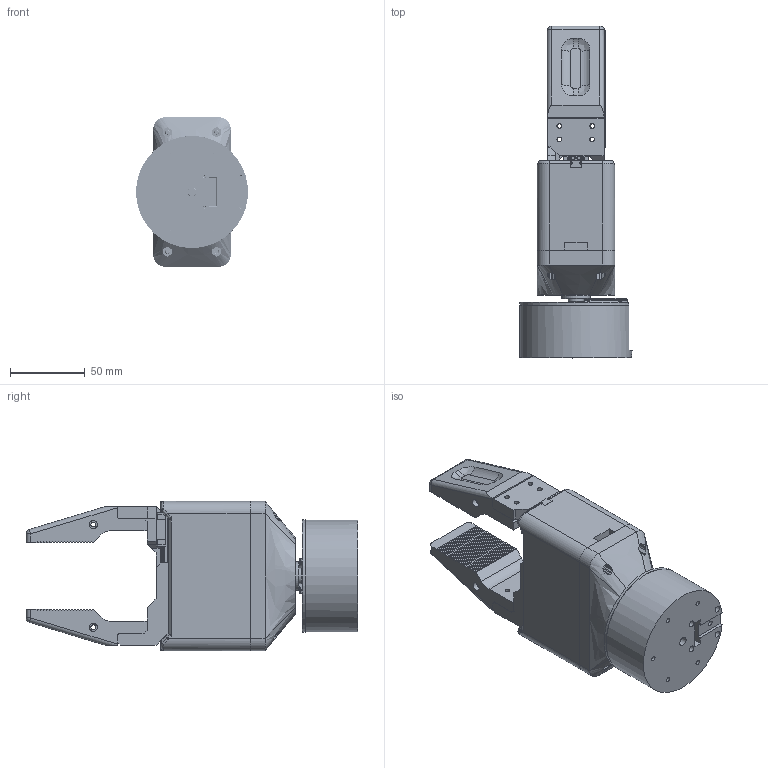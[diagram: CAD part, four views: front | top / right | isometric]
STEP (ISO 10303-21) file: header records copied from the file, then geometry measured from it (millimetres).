
FILE_DESCRIPTION(/* description */ ('STEP AP203'),/* implementation_level */ '2;1');
FILE_NAME(/* name */ 'gripper MGN7C STS3215.stp',/* time_stamp */ '2025-12-16T15:53:05+01:00',/* author */ ('R5800u'),/* organization */ (''),/* preprocessor_version */ 'ST-DEVELOPER v20',/* originating_system */ 'Autodesk Inventor 2025',/* authorisation */ '');
FILE_SCHEMA (('AUTOMOTIVE_DESIGN { 1 0 10303 214 3 1 1 }'));
Products named in the file (22): MGN7 with rail; MGN7 rail_100 mm; MGN7C_MGN7C; pignone; cremagliera; cremagliera2; base; ANSI B18.3.1M - M3x0,5 x 40(1); base_aggancio; AS 1474 - M3; dito2; SCS215_7_3; ZK_122; SG-ZIJI_15; XG-ZIJI_16; MOTOR-1723_3; PCB-CHAZUO_92; GE_27; 金属舵盘（驱动）; 金属舵盘（从动）; blocco_motore_polso; tappo base
Assembly tree (27 placements, depth 3):
  MGN7 with rail
    MGN7 rail_100 mm
    MGN7C_MGN7C  x2
    pignone
    cremagliera
    cremagliera2
    SCS215_7_3  x2
      ZK_122
      SG-ZIJI_15
      XG-ZIJI_16
      MOTOR-1723_3
      PCB-CHAZUO_92
      GE_27
      金属舵盘（驱动）
      金属舵盘（从动）
    base
    ANSI B18.3.1M - M3x0,5 x 40(1)  x4
    base_aggancio
    AS 1474 - M3
    dito2  x2
    blocco_motore_polso
    tappo base
Bounding box: 75 x 222.2 x 100 mm (x, y, z)
Volume: 537939.9 mm3; surface area: 183239.5 mm2
Topology: 49 solids, 69 shells, 3823 faces, 10331 edges, 6790 vertices
Faces by surface type: plane 1913, cylinder 1253, bspline 418, cone 140, torus 59, sphere 40
Full cylindrical faces by diameter (mm): 0.8 x8, 1 x2, 1.2 x2, 1.5 x2, 1.6 x32, 2 x4, 2.2 x18, 2.4 x10, 2.459 x1, 2.5 x66, 2.6 x2, 2.659 x8, 2.7 x12, 3 x4, 3.2 x43, 3.5 x6, 4 x10, 4.2 x7, 4.4 x4, 4.5 x4, 4.7 x2, 5 x5, 5.5 x19, 5.6 x10, 6 x7, 6.05 x2, 6.1 x4, 6.2 x2, 6.5 x5, 8 x2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
Entity records: 96298 total; most frequent: CARTESIAN_POINT 37245, ORIENTED_EDGE 12616, DIRECTION 11286, EDGE_CURVE 6308, VERTEX_POINT 4160, AXIS2_PLACEMENT_3D 3799, LINE 3688, VECTOR 3688
